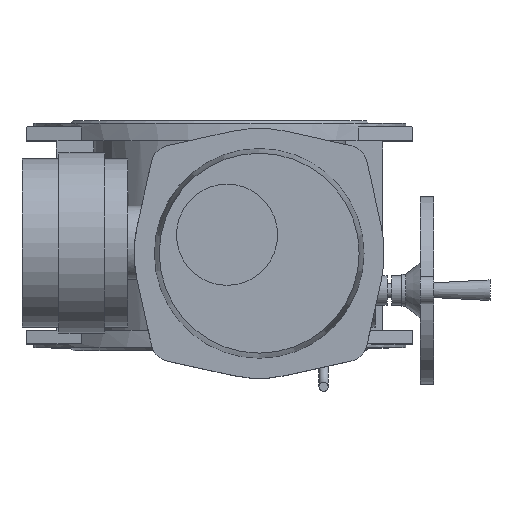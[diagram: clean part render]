
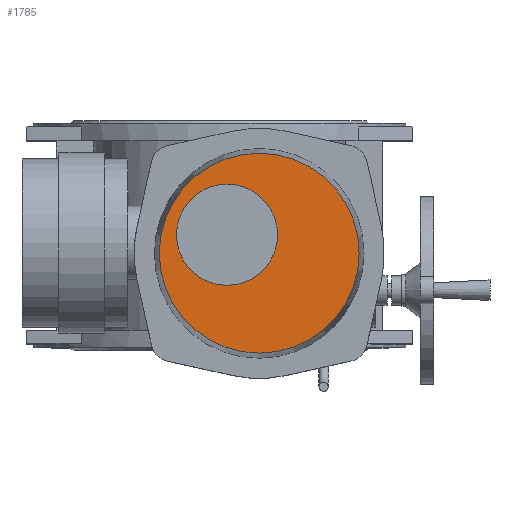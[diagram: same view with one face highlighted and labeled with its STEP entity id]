
A CAD part, top view. The second image highlights one B-rep face of the part: STEP entity #1785.
In plain terms, the highlighted planar face has unit normal (0, 0, 1).
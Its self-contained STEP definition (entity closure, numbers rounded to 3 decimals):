
#1785=ADVANCED_FACE('',(#3851,#3853),#3855,.T.);
#3851=FACE_BOUND('',#3852,.T.);
#3852=EDGE_LOOP('',(#5127));
#3853=FACE_BOUND('',#3854,.T.);
#3854=EDGE_LOOP('',(#5128));
#3855=PLANE('',#3856);
#3856=AXIS2_PLACEMENT_3D('',#3857,#3858,#3859);
#3857=CARTESIAN_POINT('',(43.,-20.,552.));
#3858=DIRECTION('',(0.,0.,1.));
#3859=DIRECTION('',(0.,1.,0.));
#5127=ORIENTED_EDGE('',*,*,#5747,.T.);
#5128=ORIENTED_EDGE('',*,*,#5752,.F.);
#5747=EDGE_CURVE('',#6613,#6613,#6614,.T.);
#5752=EDGE_CURVE('',#6623,#6623,#6624,.T.);
#6613=VERTEX_POINT('',#10054);
#6614=CIRCLE('',#10055,108.707);
#6623=VERTEX_POINT('',#10079);
#6624=CIRCLE('',#10080,55.);
#10054=CARTESIAN_POINT('',(43.,88.707,552.));
#10055=AXIS2_PLACEMENT_3D('',#10056,#10057,#10058);
#10056=CARTESIAN_POINT('',(43.,-20.,552.));
#10057=DIRECTION('',(0.,0.,1.));
#10058=DIRECTION('',(0.,1.,0.));
#10079=CARTESIAN_POINT('',(8.,55.,552.));
#10080=AXIS2_PLACEMENT_3D('',#10081,#10082,#10083);
#10081=CARTESIAN_POINT('',(8.,0.,552.));
#10082=DIRECTION('',(0.,0.,1.));
#10083=DIRECTION('',(0.,1.,0.));
